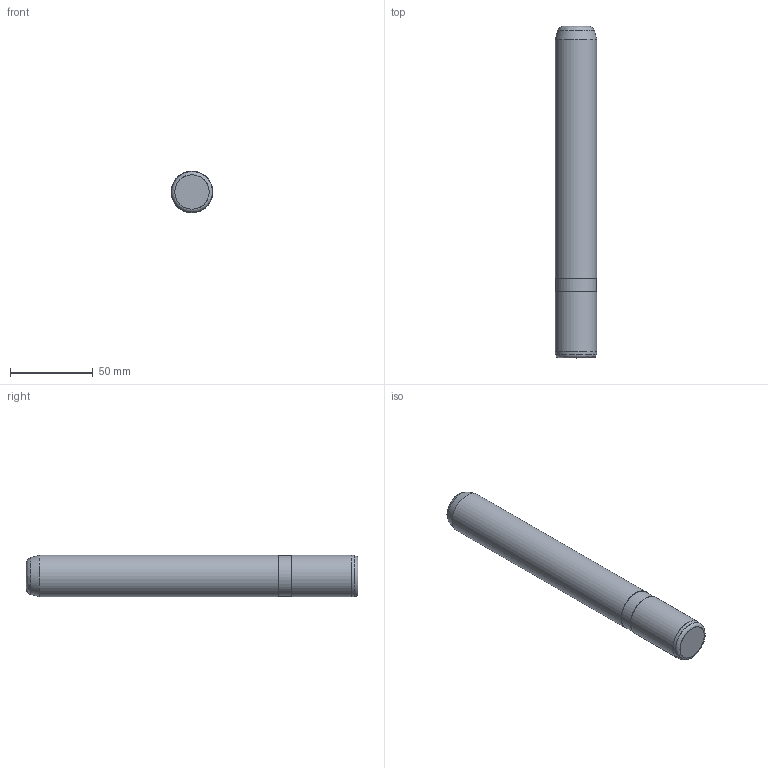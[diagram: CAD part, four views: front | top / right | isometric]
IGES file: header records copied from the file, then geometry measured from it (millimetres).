
Start section: Missler Software BP 521, 31674 Labege Cedex, France Tel   : +33 (0)5 61 00 03 00 Fax   : +33 (0)5 61 00 03 03 Email : sup.topsolid@topsolid.com
Global section: file name: D:\Cuma\26 04 2010\D15g\D15_25200.igs; native system: TopSolid v605250 Missler Software; preprocessor: IGES preprocessor v100000; date: 030225.171605; units: millimetre
Bounding box: 25 x 200 x 25 mm (x, y, z)
Surface area: 16410.3 mm2 (no closed solid volume)
Topology: 0 solids, 0 shells, 11 faces, 200 edges, 194 vertices
Faces by surface type: bspline 11
